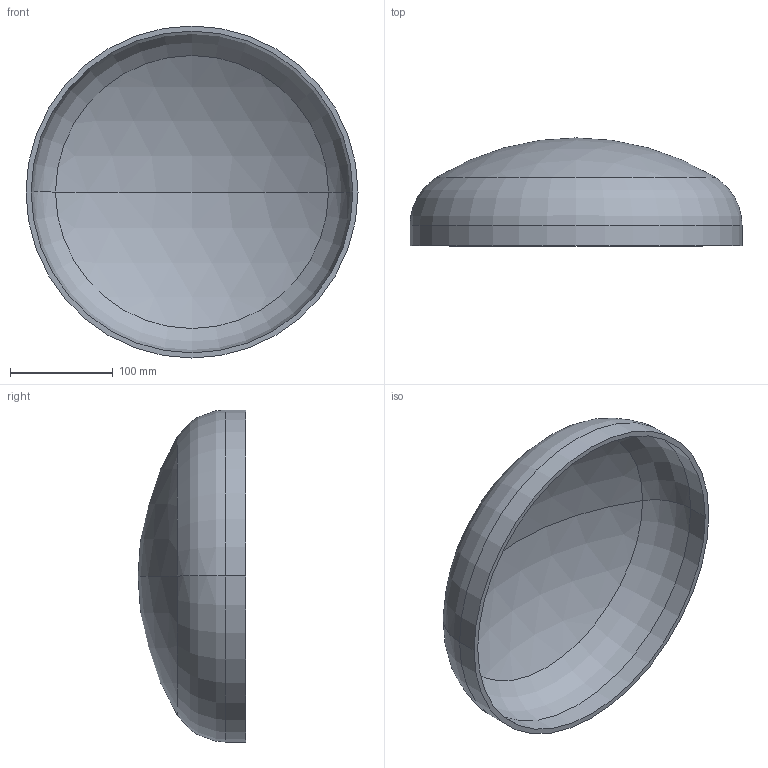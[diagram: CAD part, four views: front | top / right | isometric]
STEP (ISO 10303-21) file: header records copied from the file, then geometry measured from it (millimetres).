
FILE_DESCRIPTION (( 'STEP AP203' ), '1' );
FILE_NAME ('DIN 28013 Korbbogenform_-_Boden DIN 28013 - 323,9 x 20 - I - s=5.step', '2016-07-01T07:44:06', ( '' ), ( '' ), 'SwSTEP 2.0', 'SolidWorks 2013', '' );
FILE_SCHEMA (( 'CONFIG_CONTROL_DESIGN' ));
Length unit declared in the file: millimetre
Products named in the file (1): DIN 28013 Korbbogenform_-_Boden DIN 28013 - 323,9 x 20 - I - s=5
Bounding box: 323.9 x 105.28 x 323.9 mm (x, y, z)
Volume: 660549 mm3; surface area: 269281.2 mm2
Topology: 1 solids, 1 shells, 13 faces, 24 edges, 14 vertices
Faces by surface type: torus 4, cylinder 4, sphere 4, plane 1
Entity records: 407 total; most frequent: DIRECTION 72, CARTESIAN_POINT 52, ORIENTED_EDGE 48, AXIS2_PLACEMENT_3D 34, EDGE_CURVE 24, CIRCLE 20, VERTEX_POINT 14, EDGE_LOOP 14
